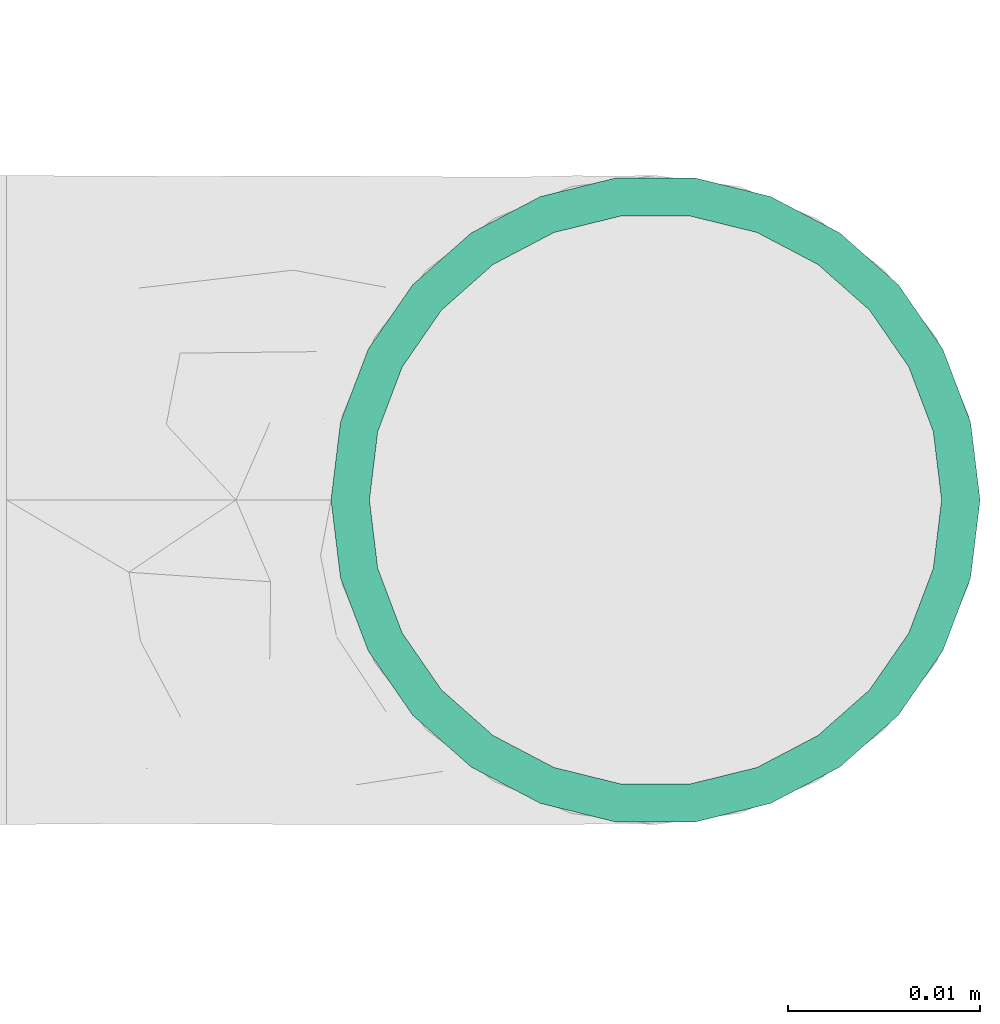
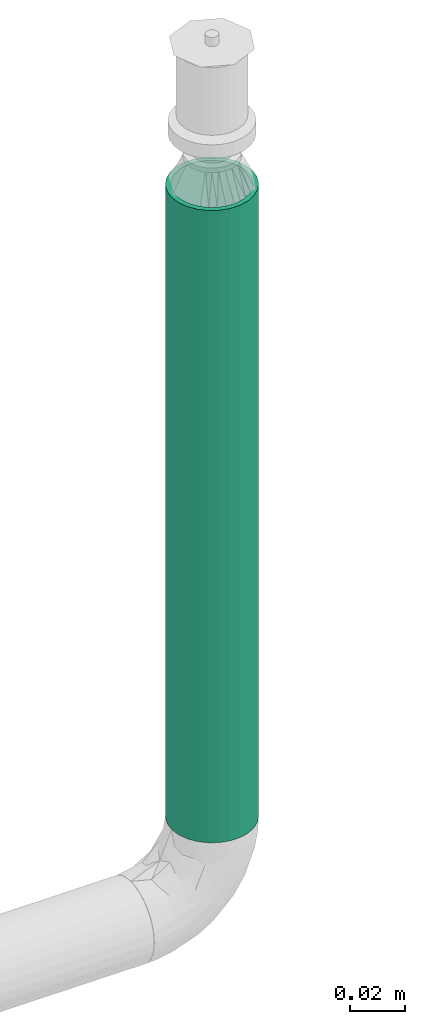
# One storey, part 21 of 157: 1 flow segment.
"""IFC2X3 building model written with IfcOpenShell, lengths in millimetres."""

from ifc_helpers import new_model, entity, si_unit, converted_unit, derived_unit, direction, frame, origin_with_axes, origin_2d_with_axis, place, context, subcontext, project, spatial, hollow_circle, extrude, source, transform, mapped, type_object, element, save


model = new_model("IFC2X3")

# Units and contexts
model_context = context("Model", 3, precision=0.01, world=frame((0.0, 4.29681676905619e-09, 0.0)), true_north=direction((4.01073788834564e-13, 1.0)))
plan_context = context("Plan", 3, precision=0.01, world=frame((0.0, 4.29681676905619e-09, 0.0)), true_north=direction((4.01073788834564e-13, 1.0)))
body_context = subcontext(model_context, "Body", "Model", "MODEL_VIEW")
ifc_project = project(units=[converted_unit("PLANEANGLEUNIT", "DEGREE", entity("IfcPositiveLengthMeasure", 0.0174532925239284), si_unit("PLANEANGLEUNIT", "RADIAN"), dimensions=[0, 0, 0, 0, 0, 0, 0]), si_unit("AREAUNIT", "SQUARE_METRE"), si_unit("LENGTHUNIT", "METRE", prefix="MILLI"), si_unit("MASSUNIT", "GRAM", prefix="KILO"), si_unit("POWERUNIT", "WATT"), si_unit("PRESSUREUNIT", "PASCAL"), si_unit("FORCEUNIT", "NEWTON", prefix="KILO"), si_unit("ELECTRICCURRENTUNIT", "AMPERE"), si_unit("THERMODYNAMICTEMPERATUREUNIT", "DEGREE_CELSIUS"), si_unit("TIMEUNIT", "SECOND"), si_unit("VOLUMEUNIT", "CUBIC_METRE"), derived_unit("LINEARVELOCITYUNIT", [(si_unit("LENGTHUNIT", "METRE"), 1), (si_unit("TIMEUNIT", "SECOND"), -1)]), derived_unit("VOLUMETRICFLOWRATEUNIT", [(si_unit("VOLUMEUNIT", "CUBIC_METRE"), 1), (si_unit("TIMEUNIT", "SECOND"), -1)]), derived_unit("THERMALTRANSMITTANCEUNIT", [(si_unit("POWERUNIT", "WATT"), 1), (si_unit("THERMODYNAMICTEMPERATUREUNIT", "KELVIN"), -1), (si_unit("AREAUNIT", "SQUARE_METRE"), -1)])], contexts=[model_context, plan_context])

# Site, building, storey
site_placement = place(None, frame((0.0, -4.29681676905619e-09, 0.0), z_axis=(0.0, 0.0, 1.0), x_axis=(1.0, 0.0, 0.0)))
site = spatial("IfcSite", under=ifc_project, at=site_placement, CompositionType="ELEMENT")
building_placement = place(site_placement, frame((0.0, 4.29681676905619e-09, 0.0), z_axis=(0.0, 0.0, 1.0), x_axis=(1.0, 0.0, 0.0)))
building = spatial("IfcBuilding", under=site, at=building_placement, Name="mc-building", CompositionType="ELEMENT")
storey_placement = place(building_placement, frame((0.0, 0.0, 204000.0), z_axis=(0.0, 0.0, 1.0), x_axis=(1.0, 0.0, 0.0)))
storey = spatial("IfcBuildingStorey", under=building, at=storey_placement, Name="Nivå D", CompositionType="ELEMENT", Elevation=204000.0)

# Flow segment
pipe_segment_type = type_object("IfcPipeSegmentType", Name="Stålrør normaltykke", PredefinedType="RIGIDSEGMENT")
shared_shape = source(origin_with_axes(), body_context, "Body", "SweptSolid", [
    extrude(hollow_circle(Radius=16.9, WallThickness=2.0, at=origin_2d_with_axis()), frame((0.0, 0.0, 0.0), z_axis=(1.0, 0.0, 0.0), x_axis=(0.0, 1.0, 0.0)), (0.0, 0.0, 1.0), 279.3),
])
flow_segment_placement = place(storey_placement, frame((531640.89876, 407421.65, 3003.14799999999), z_axis=(0.0, -1.0, 0.0), x_axis=(0.0, 0.0, -1.0)))
element("IfcFlowSegment", 1, at=flow_segment_placement, inside=storey, type_object=pipe_segment_type, Name="Stålrør normaltykke", context=body_context, shape_type="MappedRepresentation", body=[
    mapped(shared_shape, transform((0.0, 0.0, 0.0), scale=1.0)),
])

save(model, "model.ifc")
